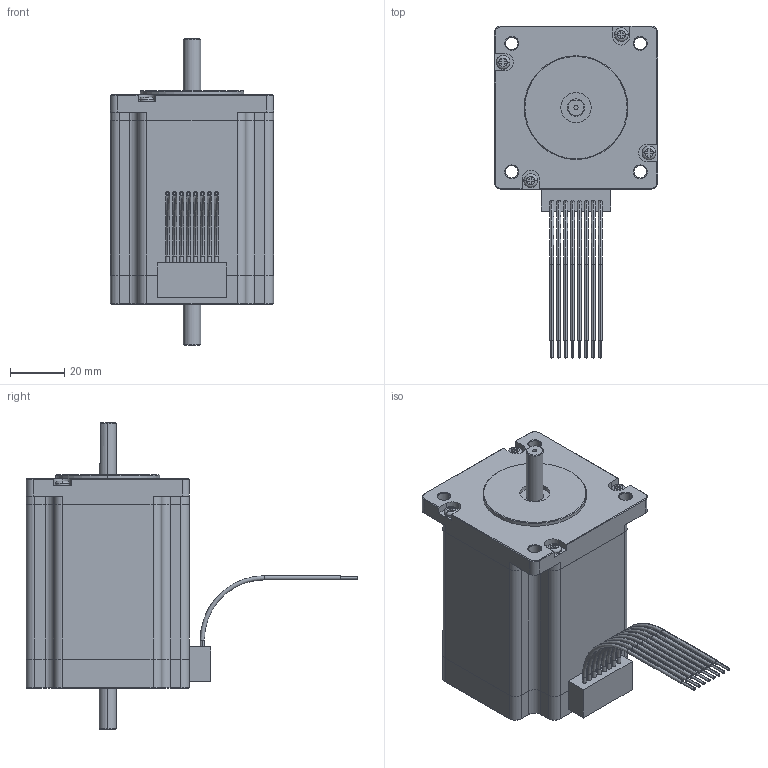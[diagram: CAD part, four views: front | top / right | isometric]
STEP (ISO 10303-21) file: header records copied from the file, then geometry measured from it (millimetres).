
FILE_DESCRIPTION (( 'STEP AP214' ), '1' );
FILE_NAME ('24Y404D-LW8.STEP', '2010-06-11T18:03:49', ( 'Tim Raines' ), ( 'Anaheim Automation' ), 'SwSTEP 2.0', 'SolidWorks 2010', '' );
FILE_SCHEMA (( 'AUTOMOTIVE_DESIGN' ));
Length unit declared in the file: inch
Products named in the file (1): 24Y404D-LW8
Bounding box: 59.94 x 121.84 x 112.55 mm (x, y, z)
Volume: 251666 mm3; surface area: 29739.8 mm2
Topology: 1 solids, 1 shells, 397 faces, 994 edges, 622 vertices
Faces by surface type: plane 175, cylinder 135, cone 63, torus 24
Entity records: 17080 total; most frequent: CARTESIAN_POINT 2256, DIRECTION 2099, ORIENTED_EDGE 1964, EDGE_CURVE 982, AXIS2_PLACEMENT_3D 777, VERTEX_POINT 622, VECTOR 545, LINE 545
